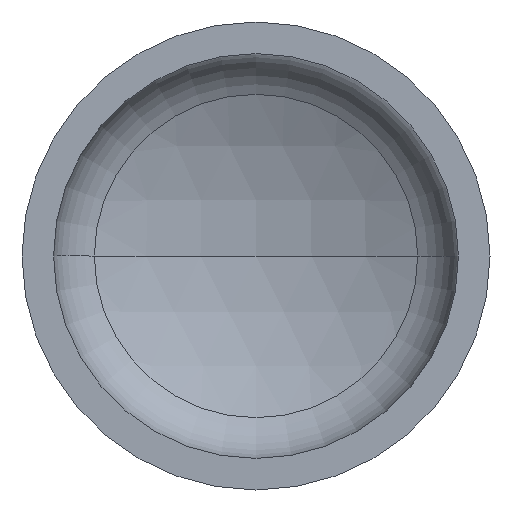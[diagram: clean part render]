
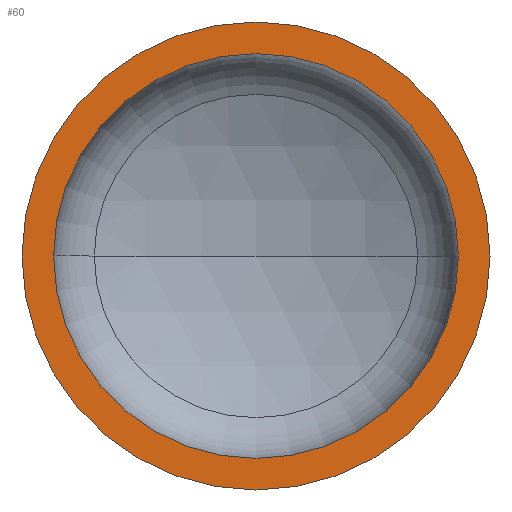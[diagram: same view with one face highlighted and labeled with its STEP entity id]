
A CAD part, front view. The second image highlights one B-rep face of the part: STEP entity #60.
In plain terms, the highlighted planar face has unit normal (0, -1, 0).
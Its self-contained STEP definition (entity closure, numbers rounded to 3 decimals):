
#3 = AXIS2_PLACEMENT_3D ( 'NONE', #69, #310, #123 ) ;
#18 = EDGE_LOOP ( 'NONE', ( #105, #64 ) ) ;
#33 = VERTEX_POINT ( 'NONE', #291 ) ;
#50 = ORIENTED_EDGE ( 'NONE', *, *, #385, .F. ) ;
#60 = ADVANCED_FACE ( 'NONE', ( #176, #257 ), #217, .F. ) ;
#63 = VERTEX_POINT ( 'NONE', #272 ) ;
#64 = ORIENTED_EDGE ( 'NONE', *, *, #239, .T. ) ;
#69 = CARTESIAN_POINT ( 'NONE',  ( 0., 0., 0. ) ) ;
#73 = EDGE_LOOP ( 'NONE', ( #329, #50 ) ) ;
#96 = CARTESIAN_POINT ( 'NONE',  ( 0., 0., 0. ) ) ;
#99 = DIRECTION ( 'NONE',  ( 0., -1., 0. ) ) ;
#105 = ORIENTED_EDGE ( 'NONE', *, *, #411, .T. ) ;
#117 = VERTEX_POINT ( 'NONE', #326 ) ;
#123 = DIRECTION ( 'NONE',  ( 1., 0., 0. ) ) ;
#136 = VERTEX_POINT ( 'NONE', #321 ) ;
#144 = CIRCLE ( 'NONE', #213, 800. ) ;
#150 = CIRCLE ( 'NONE', #340, 800. ) ;
#164 = DIRECTION ( 'NONE',  ( 1., 0., 0. ) ) ;
#174 = AXIS2_PLACEMENT_3D ( 'NONE', #300, #298, #295 ) ;
#176 = FACE_BOUND ( 'NONE', #73, .T. ) ;
#208 = AXIS2_PLACEMENT_3D ( 'NONE', #229, #216, #214 ) ;
#213 = AXIS2_PLACEMENT_3D ( 'NONE', #294, #293, #164 ) ;
#214 = DIRECTION ( 'NONE',  ( -1., 0., 0. ) ) ;
#216 = DIRECTION ( 'NONE',  ( 0., 1., 0. ) ) ;
#217 = PLANE ( 'NONE',  #208 ) ;
#229 = CARTESIAN_POINT ( 'NONE',  ( -800., 0., 0. ) ) ;
#239 = EDGE_CURVE ( 'NONE', #136, #117, #144, .T. ) ;
#240 = EDGE_CURVE ( 'NONE', #63, #33, #372, .T. ) ;
#257 = FACE_OUTER_BOUND ( 'NONE', #18, .T. ) ;
#272 = CARTESIAN_POINT ( 'NONE',  ( 692., 0., 0. ) ) ;
#282 = DIRECTION ( 'NONE',  ( 1., 0., 0. ) ) ;
#291 = CARTESIAN_POINT ( 'NONE',  ( -692., 0., 0. ) ) ;
#293 = DIRECTION ( 'NONE',  ( 0., -1., 0. ) ) ;
#294 = CARTESIAN_POINT ( 'NONE',  ( 0., 0., 0. ) ) ;
#295 = DIRECTION ( 'NONE',  ( 1., 0., 0. ) ) ;
#298 = DIRECTION ( 'NONE',  ( 0., -1., 0. ) ) ;
#300 = CARTESIAN_POINT ( 'NONE',  ( 0., 0., 0. ) ) ;
#310 = DIRECTION ( 'NONE',  ( 0., -1., 0. ) ) ;
#314 = CIRCLE ( 'NONE', #3, 692. ) ;
#321 = CARTESIAN_POINT ( 'NONE',  ( -800., 0., 0. ) ) ;
#326 = CARTESIAN_POINT ( 'NONE',  ( 800., 0., 0. ) ) ;
#329 = ORIENTED_EDGE ( 'NONE', *, *, #240, .F. ) ;
#340 = AXIS2_PLACEMENT_3D ( 'NONE', #96, #99, #282 ) ;
#372 = CIRCLE ( 'NONE', #174, 692. ) ;
#385 = EDGE_CURVE ( 'NONE', #33, #63, #314, .T. ) ;
#411 = EDGE_CURVE ( 'NONE', #117, #136, #150, .T. ) ;
